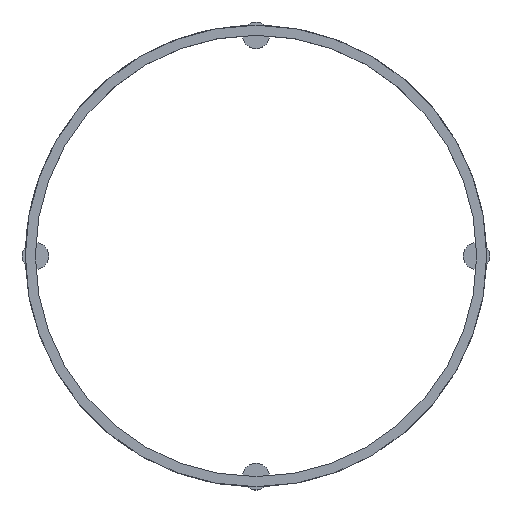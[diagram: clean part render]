
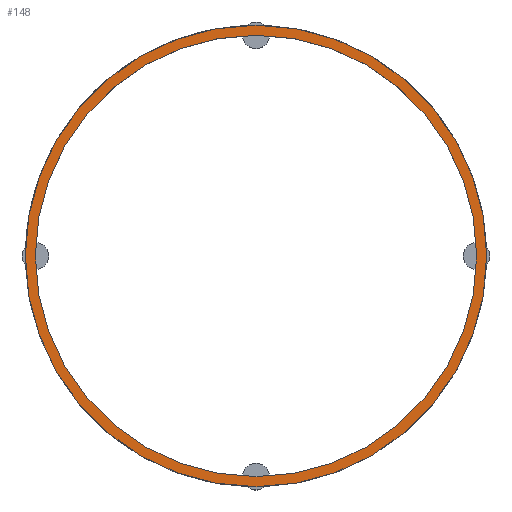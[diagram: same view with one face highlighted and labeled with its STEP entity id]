
A CAD part, top view. The second image highlights one B-rep face of the part: STEP entity #148.
In plain terms, the highlighted planar face has unit normal (0, 0, 1).
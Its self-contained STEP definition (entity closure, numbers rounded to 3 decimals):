
#103=PLANE('',#738);
#127=FACE_BOUND('',#245,.T.);
#128=FACE_BOUND('',#246,.T.);
#148=ADVANCED_FACE('',(#127,#128),#103,.T.);
#245=EDGE_LOOP('',(#375));
#246=EDGE_LOOP('',(#376));
#375=ORIENTED_EDGE('',*,*,#534,.F.);
#376=ORIENTED_EDGE('',*,*,#587,.T.);
#482=VERTEX_POINT('',#1040);
#527=VERTEX_POINT('',#1150);
#534=EDGE_CURVE('',#482,#482,#616,.T.);
#587=EDGE_CURVE('',#527,#527,#655,.T.);
#616=CIRCLE('',#686,33.);
#655=CIRCLE('',#737,34.5);
#686=AXIS2_PLACEMENT_3D('',#1039,#803,#804);
#737=AXIS2_PLACEMENT_3D('',#1149,#919,#920);
#738=AXIS2_PLACEMENT_3D('',#1151,#921,#922);
#803=DIRECTION('',(0.,0.,1.));
#804=DIRECTION('',(1.,0.,0.));
#919=DIRECTION('',(0.,0.,1.));
#920=DIRECTION('',(1.,0.,0.));
#921=DIRECTION('',(0.,0.,1.));
#922=DIRECTION('',(1.,0.,0.));
#1039=CARTESIAN_POINT('',(0.,0.,6.));
#1040=CARTESIAN_POINT('',(33.,0.,6.));
#1149=CARTESIAN_POINT('',(0.,0.,6.));
#1150=CARTESIAN_POINT('',(34.5,0.,6.));
#1151=CARTESIAN_POINT('',(0.,0.,6.));
